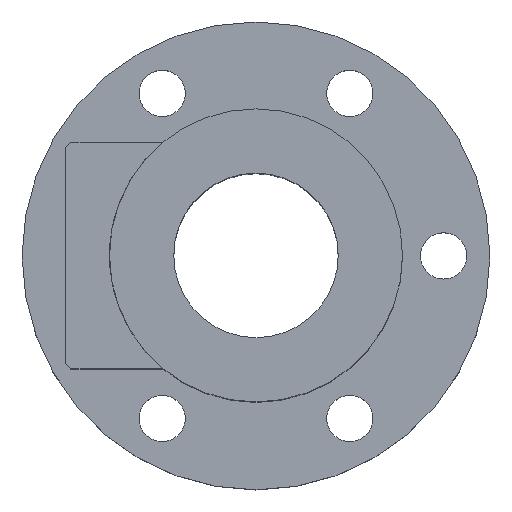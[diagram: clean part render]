
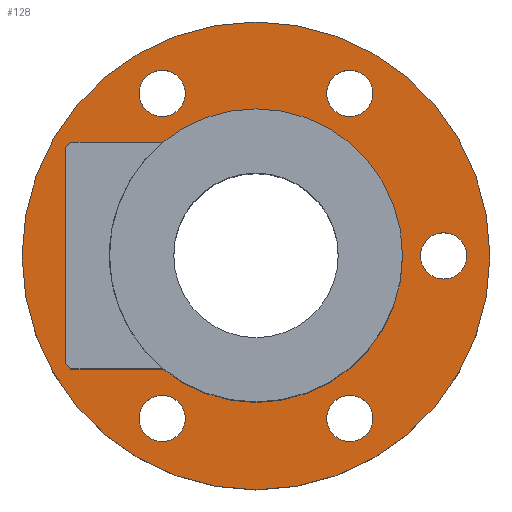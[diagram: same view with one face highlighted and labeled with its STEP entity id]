
A CAD part, top view. The second image highlights one B-rep face of the part: STEP entity #128.
In plain terms, the highlighted planar face has unit normal (0, 0, 1).
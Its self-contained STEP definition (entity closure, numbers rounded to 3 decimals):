
#97=PLANE('',#515);
#112=FACE_OUTER_BOUND('',#251,.T.);
#128=ADVANCED_FACE('',(#203,#204,#205,#112,#206,#207,#208),#97,.T.);
#203=FACE_BOUND('',#248,.T.);
#204=FACE_BOUND('',#249,.T.);
#205=FACE_BOUND('',#250,.T.);
#206=FACE_BOUND('',#252,.T.);
#207=FACE_BOUND('',#253,.T.);
#208=FACE_BOUND('',#254,.T.);
#248=EDGE_LOOP('',(#311));
#249=EDGE_LOOP('',(#312));
#250=EDGE_LOOP('',(#313));
#251=EDGE_LOOP('',(#314));
#252=EDGE_LOOP('',(#315));
#253=EDGE_LOOP('',(#316));
#254=EDGE_LOOP('',(#317));
#311=ORIENTED_EDGE('',*,*,#437,.F.);
#312=ORIENTED_EDGE('',*,*,#438,.F.);
#313=ORIENTED_EDGE('',*,*,#432,.F.);
#314=ORIENTED_EDGE('',*,*,#439,.T.);
#315=ORIENTED_EDGE('',*,*,#440,.F.);
#316=ORIENTED_EDGE('',*,*,#441,.F.);
#317=ORIENTED_EDGE('',*,*,#442,.F.);
#394=VERTEX_POINT('',#694);
#399=VERTEX_POINT('',#705);
#400=VERTEX_POINT('',#707);
#401=VERTEX_POINT('',#709);
#402=VERTEX_POINT('',#711);
#403=VERTEX_POINT('',#713);
#404=VERTEX_POINT('',#715);
#432=EDGE_CURVE('',#394,#394,#476,.T.);
#437=EDGE_CURVE('',#399,#399,#479,.T.);
#438=EDGE_CURVE('',#400,#400,#480,.T.);
#439=EDGE_CURVE('',#401,#401,#481,.T.);
#440=EDGE_CURVE('',#402,#402,#482,.T.);
#441=EDGE_CURVE('',#403,#403,#483,.T.);
#442=EDGE_CURVE('',#404,#404,#484,.T.);
#476=CIRCLE('',#505,28.5);
#479=CIRCLE('',#509,4.5);
#480=CIRCLE('',#510,4.5);
#481=CIRCLE('',#511,45.5);
#482=CIRCLE('',#512,4.5);
#483=CIRCLE('',#513,4.5);
#484=CIRCLE('',#514,4.5);
#505=AXIS2_PLACEMENT_3D('',#693,#564,#565);
#509=AXIS2_PLACEMENT_3D('',#704,#574,#575);
#510=AXIS2_PLACEMENT_3D('',#706,#576,#577);
#511=AXIS2_PLACEMENT_3D('',#708,#578,#579);
#512=AXIS2_PLACEMENT_3D('',#710,#580,#581);
#513=AXIS2_PLACEMENT_3D('',#712,#582,#583);
#514=AXIS2_PLACEMENT_3D('',#714,#584,#585);
#515=AXIS2_PLACEMENT_3D('',#716,#586,#587);
#564=DIRECTION('',(0.,0.,1.));
#565=DIRECTION('',(1.,0.,0.));
#574=DIRECTION('',(0.,0.,1.));
#575=DIRECTION('',(-0.5,-0.866,0.));
#576=DIRECTION('',(0.,0.,1.));
#577=DIRECTION('',(0.5,0.866,0.));
#578=DIRECTION('',(0.,0.,1.));
#579=DIRECTION('',(1.,0.,0.));
#580=DIRECTION('',(0.,0.,1.));
#581=DIRECTION('',(1.,0.,0.));
#582=DIRECTION('',(0.,0.,1.));
#583=DIRECTION('',(-1.,0.,0.));
#584=DIRECTION('',(0.,0.,1.));
#585=DIRECTION('',(0.5,-0.866,0.));
#586=DIRECTION('',(0.,0.,1.));
#587=DIRECTION('',(1.,0.,0.));
#693=CARTESIAN_POINT('',(0.,0.,16.));
#694=CARTESIAN_POINT('',(28.5,0.,16.));
#704=CARTESIAN_POINT('',(18.25,-31.61,16.));
#705=CARTESIAN_POINT('',(16.,-35.507,16.));
#706=CARTESIAN_POINT('',(-18.25,31.61,16.));
#707=CARTESIAN_POINT('',(-16.,35.507,16.));
#708=CARTESIAN_POINT('',(0.,0.,16.));
#709=CARTESIAN_POINT('',(45.5,0.,16.));
#710=CARTESIAN_POINT('',(18.25,31.61,16.));
#711=CARTESIAN_POINT('',(22.75,31.61,16.));
#712=CARTESIAN_POINT('',(-18.25,-31.61,16.));
#713=CARTESIAN_POINT('',(-22.75,-31.61,16.));
#714=CARTESIAN_POINT('',(36.5,0.,16.));
#715=CARTESIAN_POINT('',(38.75,-3.897,16.));
#716=CARTESIAN_POINT('',(0.,0.,16.));
